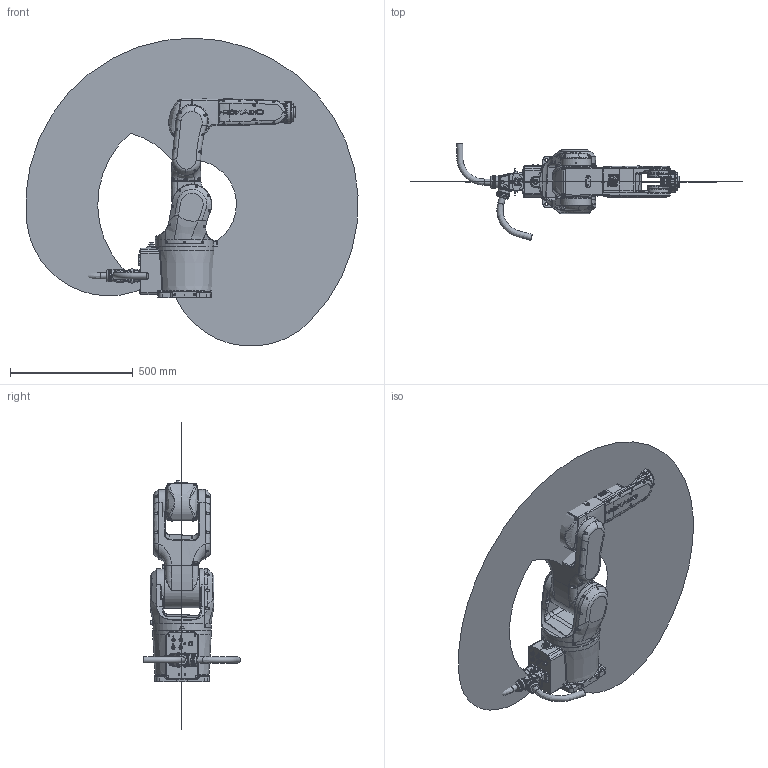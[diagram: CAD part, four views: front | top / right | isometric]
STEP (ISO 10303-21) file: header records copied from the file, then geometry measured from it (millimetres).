
FILE_DESCRIPTION(/* description */ (''),/* implementation_level */ '2;1');
FILE_NAME(/* name */ 'XB7h-R707-XBC5线束 简化模型(20241209).stp',/* time_stamp */ '2024-12-25T13:44:48+08:00',/* author */ (''),/* organization */ (''),/* preprocessor_version */ 'ST-DEVELOPER v16',/* originating_system */ 'SIEMENS PLM Software NX 10.0',/* authorisation */ '');
FILE_SCHEMA (('AUTOMOTIVE_DESIGN { 1 0 10303 214 3 1 1 1 }'));
Products named in the file (9): XB7-xiaobiqian-Flogo; XB7-shuchu-B; XB7&12-3Dwork-A; XB7-shouwan-A; XB7&12-xiaobihou-A; XB7&12-dabi-A; XB7&12-yao-A; XB7&12-base-B; XB7h-R707-XBC5线束 简化模型(
20241209)
Assembly tree (8 placements, depth 2):
  XB7h-R707-XBC5线束 简化模型(
20241209)
    XB7&12-base-B
    XB7&12-yao-A
    XB7&12-dabi-A
    XB7&12-xiaobihou-A
    XB7-shouwan-A
    XB7&12-3Dwork-A
    XB7-shuchu-B
    XB7-xiaobiqian-Flogo
Bounding box: 1351.29 x 393.43 x 1252.93 mm (x, y, z)
Volume: 30663891.7 mm3; surface area: 2460567.7 mm2
Topology: 36 solids, 56 shells, 4974 faces, 11824 edges, 7155 vertices
Faces by surface type: plane 1722, cylinder 1227, bspline 900, cone 583, torus 335, extrusion 167, sphere 40
Full cylindrical faces by diameter (mm): 2.874 x5, 3.3 x2, 3.4 x4, 4 x4, 4.2 x8, 4.75 x4, 4.826 x1, 5 x6, 5.1 x4, 5.13 x8, 5.5 x74, 6 x2, 6.725 x4, 7 x21, 8.5 x10, 9 x4, 9.5 x3, 9.8 x1, 12.8 x1, 13 x1, 13.5 x4, 15 x4, 17.5 x1, 18.5 x1, 22 x1, 25 x2, 41.226 x2, 47.5 x2, 49.55 x4, 50 x2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
Entity records: 199712 total; most frequent: CARTESIAN_POINT 95255, ORIENTED_EDGE 22380, DIRECTION 19805, EDGE_CURVE 11193, AXIS2_PLACEMENT_3D 8020, VERTEX_POINT 7032, EDGE_LOOP 5695, ADVANCED_FACE 4966
